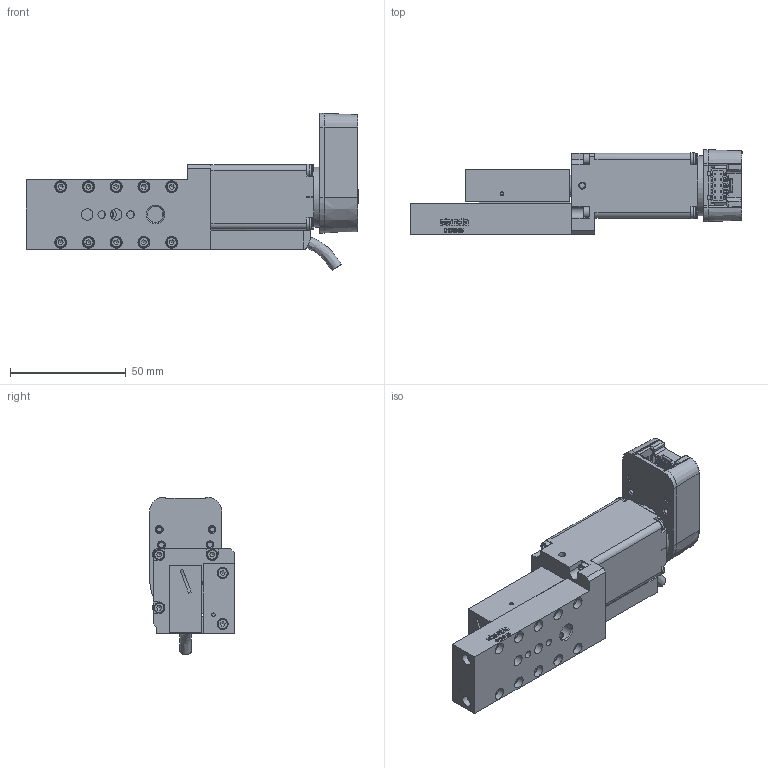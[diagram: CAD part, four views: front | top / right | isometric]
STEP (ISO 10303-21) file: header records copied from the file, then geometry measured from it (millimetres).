
FILE_DESCRIPTION(/* description */ (''),/* implementation_level */ '2;1');
FILE_NAME(/* name */ 'U:\KONSTRUKTORIAI\DOKUMENTACIJA\8\8MT173\8MT173-20\STEP\8MT173-20-MEn4 SB.stp',/* time_stamp */ '2021-02-18T10:58:49+02:00',/* author */ ('dsgn32'),/* organization */ (''),/* preprocessor_version */ 'ST-DEVELOPER v15.2',/* originating_system */ 'Autodesk Inventor 2014',/* authorisation */ '');
FILE_SCHEMA (('AUTOMOTIVE_DESIGN { 1 0 10303 214 3 1 1 }'));
Products named in the file (1): 8MT173-20-MEn4 SB
Bounding box: 143.59 x 36.53 x 67.97 mm (x, y, z)
Volume: 106493.1 mm3; surface area: 46114.9 mm2
Topology: 2 solids, 55 shells, 2472 faces, 6196 edges, 3866 vertices
Faces by surface type: plane 1402, cylinder 553, cone 281, bspline 128, torus 78, sphere 30
Full cylindrical faces by diameter (mm): 0.813 x5, 1.5 x2, 1.567 x6, 1.6 x2, 1.981 x5, 2 x15, 2.013 x8, 2.2 x1, 2.261 x8, 2.4 x2, 2.459 x2, 2.5 x19, 2.729 x4, 2.8 x12, 2.845 x38, 2.9 x3, 3 x12, 3.2 x3, 3.242 x3, 3.3 x1, 3.302 x2, 3.5 x2, 3.8 x1, 4 x1, 4.5 x17, 4.8 x2, 4.917 x2, 4.953 x2, 5 x4, 5.2 x12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
Entity records: 74919 total; most frequent: CARTESIAN_POINT 16892, DIRECTION 11340, ORIENTED_EDGE 11120, EDGE_CURVE 5544, AXIS2_PLACEMENT_3D 3976, VERTEX_POINT 3711, LINE 3388, VECTOR 3388
